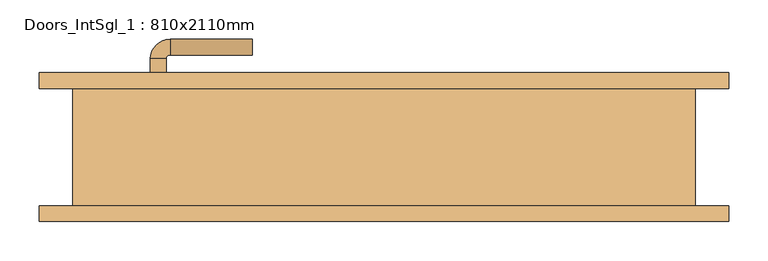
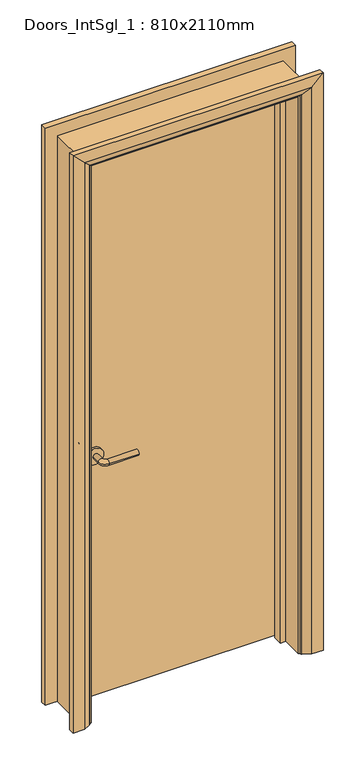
"""IFC4 building model written with IfcOpenShell, lengths in millimetres: door geometry, Doors_IntSgl_1 : 810x2110mm."""

from ifc_helpers import new_model, si_unit, point, frame, frame_2d, origin, place, context, project, spatial, polyline, circle_curve, ellipse_curve, trimmed, segment, composite_curve, outline, extrude, faceted_brep, source, transform, mapped, element, save
from ifc_brep_helpers import plane_surface, cylinder_surface, revolved_surface, advanced_brep


def doors_intsgl_1_810x2110mm_25a09e80(model_context):
    return source(origin(), model_context, "Body", "SolidModel", [
        advanced_brep(
        [(-298.0, 29.0, 900.0), (-278.0, 29.0, 900.0), (-278.0, -1.0, 900.0), (-298.0, -1.0, 900.0), (-273.0, -6.0, 900.0), (-273.0, -26.0, 900.0), (-168.0, -26.0, 900.0), (-168.0, -6.0, 900.0)],
        [
            (0, 1, circle_curve(frame((-288.0, 29.0, 900.0), z_axis=(0.0, 1.0, 0.0), x_axis=(1.0, 0.0, 0.0)), 10.0)),
            (1, 0, circle_curve(frame((-288.0, 29.0, 900.0), z_axis=(0.0, 1.0, 0.0), x_axis=(1.0, 0.0, 0.0)), 10.0)),
            (1, 2),
            (2, 3, circle_curve(frame((-288.0, -1.0, 900.0), z_axis=(0.0, 1.0, 0.0), x_axis=(1.0, 0.0, 0.0)), 10.0)),
            (3, 0),
            (3, 2, circle_curve(frame((-288.0, -1.0, 900.0), z_axis=(0.0, 1.0, 0.0), x_axis=(1.0, 0.0, 0.0)), 10.0)),
            (4, 5, circle_curve(frame((-273.0, -16.0, 900.0), z_axis=(-1.0, 0.0, 0.0), x_axis=(0.0, 1.0, 0.0)), 10.0)),
            (5, 3, circle_curve(frame((-273.0, -1.0, 900.0), z_axis=(0.0, 0.0, -1.0), x_axis=(-1.0, 0.0, 0.0)), 25.0)),
            (2, 4, circle_curve(frame((-273.0, -1.0, 900.0), z_axis=(0.0, 0.0, 1.0), x_axis=(-1.0, 0.0, 0.0)), 5.0)),
            (5, 4, circle_curve(frame((-273.0, -16.0, 900.0), z_axis=(-1.0, 0.0, 0.0), x_axis=(0.0, 1.0, 0.0)), 10.0)),
            (6, 7, circle_curve(frame((-168.0, -16.0, 900.0), z_axis=(1.0, 0.0, 0.0), x_axis=(0.0, 1.0, 0.0)), 10.0)),
            (7, 6, circle_curve(frame((-168.0, -16.0, 900.0), z_axis=(1.0, 0.0, 0.0), x_axis=(0.0, 1.0, 0.0)), 10.0)),
            (4, 7),
            (6, 5),
        ],
        [
            plane_surface(frame((-288.0, 29.0, 900.0), z_axis=(0.0, 1.0, 0.0), x_axis=(0.0, 0.0, 1.0))),
            cylinder_surface(frame((-288.0, 29.0, 900.0), z_axis=(0.0, 1.0, 0.0), x_axis=(1.0, 0.0, 0.0)), 10.0),
            revolved_surface(trimmed(ellipse_curve(frame((-288.0, -1.0, 900.0), z_axis=(0.0, -1.0, 0.0), x_axis=(1.0, 0.0, 0.0)), 10.0, 10.0), [point((-298.0, -1.0, 900.0))], [point((-278.0, -1.0, 900.0))], True, "CARTESIAN"), (-273.0, -1.0, 900.0), (0.0, 0.0, -1.0)),
            revolved_surface(trimmed(ellipse_curve(frame((-288.0, -1.0, 900.0), z_axis=(0.0, -1.0, 0.0), x_axis=(1.0, 0.0, 0.0)), 10.0, 10.0), [point((-278.0, -1.0, 900.0))], [point((-298.0, -1.0, 900.0))], True, "CARTESIAN"), (-273.0, -1.0, 900.0), (0.0, 0.0, -1.0)),
            plane_surface(frame((-168.0, -16.0, 900.0), z_axis=(1.0, 0.0, 0.0), x_axis=(0.0, 0.0, 1.0))),
            cylinder_surface(frame((-273.0, -16.0, 900.0), z_axis=(-1.0, 0.0, 0.0), x_axis=(0.0, 1.0, 0.0)), 10.0),
        ],
        [
            (0, [[1, 2]]),
            (1, [[3, 4, 5, -2]]),
            (1, [[-5, 6, -3, -1]]),
            (2, [[7, 8, -4, 9]]),
            (3, [[10, -9, -6, -8]]),
            (4, [[11, 12]]),
            (5, [[13, -11, 14, -7]]),
            (5, [[-14, -12, -13, -10]]),
        ],
    ),
        extrude(outline(composite_curve([segment(trimmed(circle_curve(frame_2d((900.0, -290.5)), 30.0), [point((900.0, -320.5))], [point((900.0, -260.5))], False, "CARTESIAN"), True, "CONTINUOUS"), segment(trimmed(circle_curve(frame_2d((900.0, -290.5)), 30.0), [point((900.0, -260.5))], [point((900.0, -320.5))], False, "CARTESIAN"), True, "CONTINUOUS")], self_intersect=False)), frame((0.0, 29.0, 0.0), z_axis=(0.0, 1.0, 0.0), x_axis=(0.0, 0.0, 1.0)), (0.0, 0.0, 1.0), 8.0),
        advanced_brep(
        [(-298.0, 83.0, 900.0), (-278.0, 83.0, 900.0), (-298.0, 113.0, 900.0), (-278.0, 113.0, 900.0), (-273.0, 118.0, 900.0), (-273.0, 138.0, 900.0), (-168.0, 138.0, 900.0), (-168.0, 118.0, 900.0)],
        [
            (0, 1, circle_curve(frame((-288.0, 83.0, 900.0), z_axis=(0.0, -1.0, 0.0), x_axis=(1.0, 0.0, 0.0)), 10.0)),
            (1, 0, circle_curve(frame((-288.0, 83.0, 900.0), z_axis=(0.0, -1.0, 0.0), x_axis=(1.0, 0.0, 0.0)), 10.0)),
            (0, 2),
            (2, 3, circle_curve(frame((-288.0, 113.0, 900.0), z_axis=(0.0, -1.0, 0.0), x_axis=(1.0, 0.0, 0.0)), 10.0)),
            (3, 1),
            (3, 2, circle_curve(frame((-288.0, 113.0, 900.0), z_axis=(0.0, -1.0, 0.0), x_axis=(1.0, 0.0, 0.0)), 10.0)),
            (4, 3, circle_curve(frame((-273.0, 113.0, 900.0), z_axis=(0.0, 0.0, 1.0), x_axis=(-1.0, 0.0, 0.0)), 5.0)),
            (2, 5, circle_curve(frame((-273.0, 113.0, 900.0), z_axis=(0.0, 0.0, -1.0), x_axis=(-1.0, 0.0, 0.0)), 25.0)),
            (5, 4, circle_curve(frame((-273.0, 128.0, 900.0), z_axis=(-1.0, 0.0, 0.0), x_axis=(0.0, -1.0, 0.0)), 10.0)),
            (4, 5, circle_curve(frame((-273.0, 128.0, 900.0), z_axis=(-1.0, 0.0, 0.0), x_axis=(0.0, -1.0, 0.0)), 10.0)),
            (6, 7, circle_curve(frame((-168.0, 128.0, 900.0), z_axis=(1.0, 0.0, 0.0), x_axis=(0.0, -1.0, 0.0)), 10.0)),
            (7, 6, circle_curve(frame((-168.0, 128.0, 900.0), z_axis=(1.0, 0.0, 0.0), x_axis=(0.0, -1.0, 0.0)), 10.0)),
            (5, 6),
            (7, 4),
        ],
        [
            plane_surface(frame((-288.0, 83.0, 900.0), z_axis=(0.0, -1.0, 0.0), x_axis=(0.0, 0.0, 1.0))),
            cylinder_surface(frame((-288.0, 83.0, 900.0), z_axis=(0.0, -1.0, 0.0), x_axis=(1.0, 0.0, 0.0)), 10.0),
            revolved_surface(trimmed(ellipse_curve(frame((-288.0, 113.0, 900.0), z_axis=(0.0, -1.0, 0.0), x_axis=(1.0, 0.0, 0.0)), 10.0, 10.0), [point((-298.0, 113.0, 900.0))], [point((-278.0, 113.0, 900.0))], True, "CARTESIAN"), (-273.0, 113.0, 900.0), (0.0, 0.0, -1.0)),
            revolved_surface(trimmed(ellipse_curve(frame((-288.0, 113.0, 900.0), z_axis=(0.0, -1.0, 0.0), x_axis=(1.0, 0.0, 0.0)), 10.0, 10.0), [point((-278.0, 113.0, 900.0))], [point((-298.0, 113.0, 900.0))], True, "CARTESIAN"), (-273.0, 113.0, 900.0), (0.0, 0.0, -1.0)),
            plane_surface(frame((-168.0, 128.0, 900.0), z_axis=(1.0, 0.0, 0.0), x_axis=(0.0, 0.0, 1.0))),
            cylinder_surface(frame((-273.0, 128.0, 900.0), z_axis=(-1.0, 0.0, 0.0), x_axis=(0.0, -1.0, 0.0)), 10.0),
        ],
        [
            (0, [[1, 2]]),
            (1, [[-1, 3, 4, 5]]),
            (1, [[-2, -5, 6, -3]]),
            (2, [[7, -4, 8, 9]]),
            (3, [[-8, -6, -7, 10]]),
            (4, [[11, 12]]),
            (5, [[-9, 13, -12, 14]]),
            (5, [[-10, -14, -11, -13]]),
        ],
    ),
        extrude(outline(composite_curve([segment(trimmed(circle_curve(frame_2d((900.0, -290.5)), 30.0), [point((900.0, -320.5))], [point((900.0, -260.5))], False, "CARTESIAN"), True, "CONTINUOUS"), segment(trimmed(circle_curve(frame_2d((900.0, -290.5)), 30.0), [point((900.0, -260.5))], [point((900.0, -320.5))], False, "CARTESIAN"), True, "CONTINUOUS")], self_intersect=False)), frame((0.0, 75.0, 0.0), z_axis=(0.0, 1.0, 0.0), x_axis=(0.0, 0.0, 1.0)), (0.0, 0.0, 1.0), 8.0),
        extrude(outline(polyline([(363.0, 37.0), (-363.0, 37.0), (-363.0, 75.0), (363.0, 75.0), (363.0, 37.0)])), frame((0.0, 0.0, 8.0), z_axis=(0.0, 0.0, 1.0), x_axis=(1.0, 0.0, 0.0)), (0.0, 0.0, 1.0), 2060.0),
        advanced_brep(
        [(440.0, 95.0, 0.0), (440.0, 75.0, 0.0), (370.0, 75.0, 0.0), (374.0, 81.0, 0.0), (400.0, 95.0, 0.0), (440.0, 95.0, 2145.0), (440.0, 75.0, 2145.0), (-440.0, 75.0, 2145.0), (-440.0, 75.0, 0.0), (-370.0, 75.0, 0.0), (-370.0, 75.0, 2075.0), (370.0, 75.0, 2075.0), (374.0, 81.0, 2079.0), (400.0, 95.0, 2105.0), (-400.0, 95.0, 2105.0), (-400.0, 95.0, 0.0), (-440.0, 95.0, 0.0), (-440.0, 95.0, 2145.0), (-374.0, 81.0, 0.0), (-374.0, 81.0, 2079.0)],
        [
            (0, 1),
            (1, 2),
            (2, 3, circle_curve(frame((378.0, 74.0, 0.0), z_axis=(0.0, 0.0, -1.0), x_axis=(1.0, 0.0, 0.0)), 8.0622577)),
            (3, 4),
            (4, 0),
            (0, 5),
            (5, 6),
            (6, 1),
            (6, 7),
            (7, 8),
            (8, 9),
            (9, 10),
            (10, 11),
            (11, 2),
            (11, 12, ellipse_curve(frame((378.0, 74.0, 2083.0), z_axis=(0.7071067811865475, 0.0, -0.7071067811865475), x_axis=(-0.7071067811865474, 0.0, -0.7071067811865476)), 11.4017543, 8.0622577)),
            (12, 3),
            (12, 13),
            (13, 4),
            (13, 14),
            (14, 15),
            (15, 16),
            (16, 17),
            (17, 5),
            (7, 17),
            (16, 8),
            (15, 18),
            (18, 9, circle_curve(frame((-378.0, 74.0, 0.0), z_axis=(0.0, 0.0, -1.0), x_axis=(-1.0, 0.0, 0.0)), 8.0622577)),
            (19, 10, ellipse_curve(frame((-378.0, 74.0, 2083.0), z_axis=(-0.7071067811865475, 0.0, -0.7071067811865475), x_axis=(-0.7071067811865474, 0.0, 0.7071067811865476)), 11.4017543, 8.0622577)),
            (18, 19),
            (14, 19),
            (19, 12),
        ],
        [
            plane_surface(frame((370.0, 75.0, 0.0), z_axis=(0.0, 0.0, -1.0), x_axis=(0.0, -1.0, 0.0))),
            plane_surface(frame((440.0, 95.0, 0.0), z_axis=(1.0, 0.0, 0.0), x_axis=(0.0, 0.0, 1.0))),
            plane_surface(frame((440.0, 75.0, 0.0), z_axis=(0.0, -1.0, 0.0), x_axis=(0.0, 0.0, 1.0))),
            cylinder_surface(frame((378.0, 74.0, 0.0), z_axis=(0.0, 0.0, -1.0), x_axis=(1.0, 0.0, 0.0)), 8.0622577),
            plane_surface(frame((374.0, 81.0, 0.0), z_axis=(-0.4740998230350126, 0.880471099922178, 0.0), x_axis=(0.0, 0.0, 1.0))),
            plane_surface(frame((400.0, 95.0, 0.0), z_axis=(0.0, 1.0, 0.0), x_axis=(0.0, 0.0, 1.0))),
            plane_surface(frame((-440.0, 95.0, 2145.0), z_axis=(-1.0, 0.0, 0.0), x_axis=(0.0, 0.0, -1.0))),
            plane_surface(frame((-370.0, 75.0, 0.0), z_axis=(0.0, 0.0, -1.0), x_axis=(0.0, -1.0, 0.0))),
            cylinder_surface(frame((-378.0, 74.0, 2075.0), z_axis=(0.0, 0.0, 1.0), x_axis=(-1.0, 0.0, 0.0)), 8.0622577),
            plane_surface(frame((-374.0, 81.0, 2079.0), z_axis=(0.47409982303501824, 0.8804710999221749, 0.0), x_axis=(0.0, 0.0, -1.0))),
            plane_surface(frame((440.0, 95.0, 2145.0), z_axis=(0.0, 0.0, 1.0), x_axis=(-1.0, 0.0, 0.0))),
            cylinder_surface(frame((370.0, 74.0, 2083.0), z_axis=(1.0, 0.0, 0.0), x_axis=(0.0, 0.0, 1.0)), 8.0622577),
            plane_surface(frame((374.0, 81.0, 2079.0), z_axis=(0.0, 0.8804710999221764, -0.4740998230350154), x_axis=(-1.0, 0.0, 0.0))),
        ],
        [
            (0, [[1, 2, 3, 4, 5]]),
            (1, [[-1, 6, 7, 8]]),
            (2, [[-2, -8, 9, 10, 11, 12, 13, 14]]),
            (3, [[-3, -14, 15, 16]]),
            (4, [[-4, -16, 17, 18]]),
            (5, [[-5, -18, 19, 20, 21, 22, 23, -6]]),
            (6, [[24, -22, 25, -10]]),
            (7, [[-21, 26, 27, -11, -25]]),
            (8, [[28, -12, -27, 29]]),
            (9, [[30, -29, -26, -20]]),
            (10, [[-7, -23, -24, -9]]),
            (11, [[-15, -13, -28, 31]]),
            (12, [[-17, -31, -30, -19]]),
        ],
    ),
        extrude(outline(polyline([(0.0, -365.0), (0.0, -346.0), (2051.0, -346.0), (2051.0, 346.0), (0.0, 346.0), (0.0, 365.0), (2070.0, 365.0), (2070.0, -365.0), (0.0, -365.0)])), frame((0.0, 3.0, 0.0), z_axis=(0.0, 1.0, 0.0), x_axis=(0.0, 0.0, 1.0)), (0.0, 0.0, 1.0), 32.0),
        advanced_brep(
        [(-440.0, -95.0, 0.0), (-440.0, -75.0, 0.0), (-370.0, -75.0, 0.0), (-374.0, -81.0, 0.0), (-400.0, -95.0, 0.0), (-440.0, -95.0, 2145.0), (-440.0, -75.0, 2145.0), (-370.0, -75.0, 2075.0), (-374.0, -81.0, 2079.0), (-400.0, -95.0, 2105.0), (440.0, -95.0, 0.0), (400.0, -95.0, 0.0), (374.0, -81.0, 0.0), (370.0, -75.0, 0.0), (440.0, -75.0, 0.0), (440.0, -95.0, 2145.0), (400.0, -95.0, 2105.0), (374.0, -81.0, 2079.0), (370.0, -75.0, 2075.0), (440.0, -75.0, 2145.0)],
        [
            (0, 1),
            (1, 2),
            (2, 3, circle_curve(frame((-378.0, -74.0, 0.0), z_axis=(0.0, 0.0, -1.0), x_axis=(-1.0, 0.0, 0.0)), 8.0622577)),
            (3, 4),
            (4, 0),
            (0, 5),
            (5, 6),
            (6, 1),
            (6, 7),
            (7, 2),
            (7, 8, ellipse_curve(frame((-378.0, -74.0, 2083.0), z_axis=(-0.7071067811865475, 0.0, -0.7071067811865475), x_axis=(0.7071067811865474, 0.0, -0.7071067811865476)), 11.4017543, 8.0622577)),
            (8, 3),
            (8, 9),
            (9, 4),
            (9, 5),
            (10, 11),
            (11, 12),
            (12, 13, circle_curve(frame((378.0, -74.0, 0.0), z_axis=(0.0, 0.0, -1.0), x_axis=(1.0, 0.0, 0.0)), 8.0622577)),
            (13, 14),
            (14, 10),
            (15, 16),
            (16, 11),
            (10, 15),
            (16, 17),
            (17, 12),
            (17, 18, ellipse_curve(frame((378.0, -74.0, 2083.0), z_axis=(0.7071067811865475, 0.0, -0.7071067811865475), x_axis=(0.7071067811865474, 0.0, 0.7071067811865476)), 11.4017543, 8.0622577)),
            (18, 13),
            (18, 19),
            (19, 14),
            (19, 15),
            (5, 15),
            (19, 6),
            (18, 7),
            (17, 8),
            (16, 9),
        ],
        [
            plane_surface(frame((-370.0, -147.8010989, 0.0), z_axis=(0.0, 0.0, -1.0), x_axis=(1.0, 0.0, 0.0))),
            plane_surface(frame((-440.0, -95.0, 0.0), z_axis=(-1.0, 0.0, 0.0), x_axis=(0.0, 0.0, 1.0))),
            plane_surface(frame((-440.0, -75.0, 0.0), z_axis=(0.0, 1.0, 0.0), x_axis=(0.0, 0.0, 1.0))),
            cylinder_surface(frame((-378.0, -74.0, 0.0), z_axis=(0.0, 0.0, -1.0), x_axis=(-1.0, 0.0, 0.0)), 8.0622577),
            plane_surface(frame((-374.0, -81.0, 0.0), z_axis=(0.4740998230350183, -0.8804710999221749, 0.0), x_axis=(0.0, 0.0, 1.0))),
            plane_surface(frame((-400.0, -95.0, 0.0), z_axis=(0.0, -1.0, 0.0), x_axis=(0.0, 0.0, 1.0))),
            plane_surface(frame((370.0, -147.8010989, 0.0), z_axis=(0.0, 0.0, -1.0), x_axis=(-1.0, 0.0, 0.0))),
            plane_surface(frame((400.0, -95.0, 2105.0), z_axis=(0.0, -1.0, 0.0), x_axis=(0.0, 0.0, -1.0))),
            plane_surface(frame((374.0, -81.0, 2079.0), z_axis=(-0.4740998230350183, -0.8804710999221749, 0.0), x_axis=(0.0, 0.0, -1.0))),
            cylinder_surface(frame((378.0, -74.0, 2075.0), z_axis=(0.0, 0.0, 1.0), x_axis=(1.0, 0.0, 0.0)), 8.0622577),
            plane_surface(frame((440.0, -75.0, 2145.0), z_axis=(0.0, 1.0, 0.0), x_axis=(0.0, 0.0, -1.0))),
            plane_surface(frame((440.0, -95.0, 2145.0), z_axis=(1.0, 0.0, 0.0), x_axis=(0.0, 0.0, -1.0))),
            plane_surface(frame((-440.0, -95.0, 2145.0), z_axis=(0.0, 0.0, 1.0), x_axis=(1.0, 0.0, 0.0))),
            plane_surface(frame((-440.0, -75.0, 2145.0), z_axis=(0.0, 1.0, 0.0), x_axis=(1.0, 0.0, 0.0))),
            cylinder_surface(frame((-370.0, -74.0, 2083.0), z_axis=(-1.0, 0.0, 0.0), x_axis=(0.0, 0.0, 1.0)), 8.0622577),
            plane_surface(frame((-374.0, -81.0, 2079.0), z_axis=(0.0, -0.8804710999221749, -0.4740998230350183), x_axis=(1.0, 0.0, 0.0))),
            plane_surface(frame((-400.0, -95.0, 2105.0), z_axis=(0.0, -1.0, 0.0), x_axis=(1.0, 0.0, 0.0))),
        ],
        [
            (0, [[1, 2, 3, 4, 5]]),
            (1, [[-1, 6, 7, 8]]),
            (2, [[-2, -8, 9, 10]]),
            (3, [[-3, -10, 11, 12]]),
            (4, [[-4, -12, 13, 14]]),
            (5, [[-5, -14, 15, -6]]),
            (6, [[16, 17, 18, 19, 20]]),
            (7, [[21, 22, -16, 23]]),
            (8, [[24, 25, -17, -22]]),
            (9, [[26, 27, -18, -25]]),
            (10, [[28, 29, -19, -27]]),
            (11, [[30, -23, -20, -29]]),
            (12, [[-7, 31, -30, 32]]),
            (13, [[-9, -32, -28, 33]]),
            (14, [[-11, -33, -26, 34]]),
            (15, [[-13, -34, -24, 35]]),
            (16, [[-15, -35, -21, -31]]),
        ],
    ),
        faceted_brep([(-365.0, 75.0, 0.0), (-365.0, -75.0, 0.0), (-397.0, -75.0, 0.0), (-397.0, 75.0, 0.0), (-365.0, 75.0, 2070.0), (-365.0, -75.0, 2070.0), (-397.0, -75.0, 2102.0), (-397.0, 75.0, 2102.0), (365.0, 75.0, 0.0), (397.0, 75.0, 0.0), (397.0, -75.0, 0.0), (365.0, -75.0, 0.0), (365.0, 75.0, 2070.0), (397.0, 75.0, 2102.0), (397.0, -75.0, 2102.0), (365.0, -75.0, 2070.0)], [[[0, 1, 2, 3]], [[1, 0, 4, 5]], [[2, 1, 5, 6]], [[3, 2, 6, 7]], [[0, 3, 7, 4]], [[8, 9, 10, 11]], [[12, 13, 9, 8]], [[13, 14, 10, 9]], [[14, 15, 11, 10]], [[15, 12, 8, 11]], [[5, 4, 12, 15]], [[6, 5, 15, 14]], [[7, 6, 14, 13]], [[4, 7, 13, 12]]]),
    ])


if __name__ == "__main__":
    model = new_model("IFC4")
    model_context = context("Model", 3, world=origin())
    ifc_project = project(units=[si_unit("LENGTHUNIT", "METRE", prefix="MILLI")], contexts=[model_context])
    site = spatial("IfcSite", under=ifc_project)
    building = spatial("IfcBuilding", under=site)
    placement = place(None, origin())
    doors_intsgl_1_810x2110mm_shape = doors_intsgl_1_810x2110mm_25a09e80(model_context)
    element("IfcDoor", 1, ObjectType="Doors_IntSgl_1 : 810x2110mm", at=placement, inside=building, context=model_context, shape_type="MappedRepresentation", body=[
        mapped(doors_intsgl_1_810x2110mm_shape, transform((0.0, 0.0, 0.0), x_axis=(1.0, 0.0, 0.0), y_axis=(0.0, 1.0, 0.0), z_axis=(0.0, 0.0, 1.0))),
    ])
    save(model, "model.ifc")
